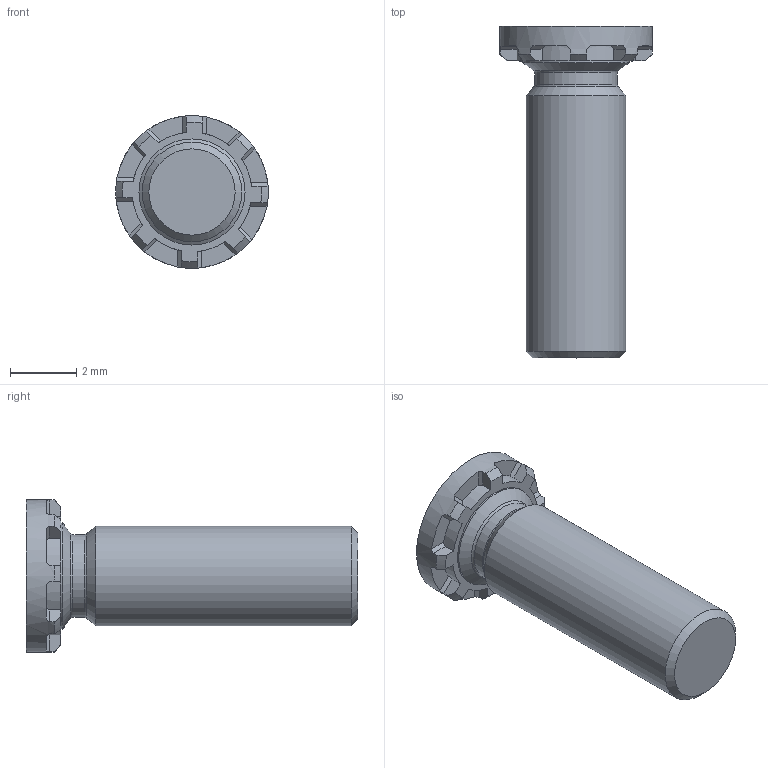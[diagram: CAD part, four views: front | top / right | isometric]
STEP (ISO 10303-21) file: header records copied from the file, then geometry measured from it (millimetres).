
FILE_DESCRIPTION(/* description */ (''),/* implementation_level */ '2;1');
FILE_NAME(/* name */ 'C:\Users\keval.kumar\Desktop\Fastit\Clinch Screw- FH Range\M3\Clinch Screw-FH Range_M3x10.stp',/* time_stamp */ '2024-03-12T11:50:19+05:00',/* author */ ('keval.kumar'),/* organization */ (''),/* preprocessor_version */ 'ST-DEVELOPER v18.1',/* originating_system */ 'Autodesk Inventor 2022',/* authorisation */ '');
FILE_SCHEMA (('AUTOMOTIVE_DESIGN { 1 0 10303 214 3 1 1 }'));
Length unit declared in the file: millimetre
Products named in the file (1): Clinch Screw-FH Range_M3x10
Bounding box: 4.6 x 10 x 4.6 mm (x, y, z)
Volume: 77.1 mm3; surface area: 132.8 mm2
Topology: 1 solids, 1 shells, 68 faces, 193 edges, 128 vertices
Faces by surface type: plane 43, cylinder 12, cone 11, torus 2
Full cylindrical faces by diameter (mm): 2.5 x1, 3 x1, 3.2 x1, 4.6 x1
Entity records: 2278 total; most frequent: CARTESIAN_POINT 422, DIRECTION 405, ORIENTED_EDGE 386, EDGE_CURVE 193, AXIS2_PLACEMENT_3D 159, VERTEX_POINT 128, LINE 87, VECTOR 87
